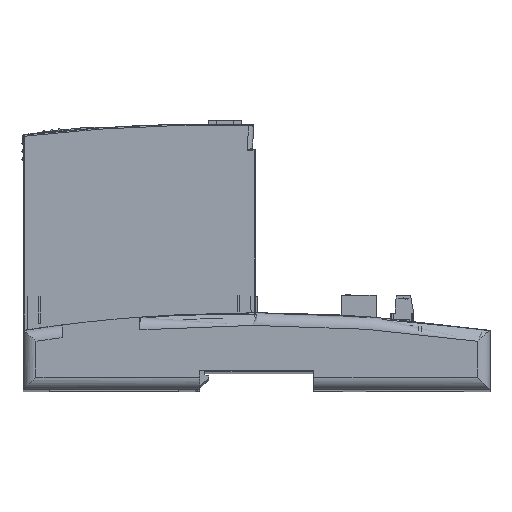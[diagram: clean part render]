
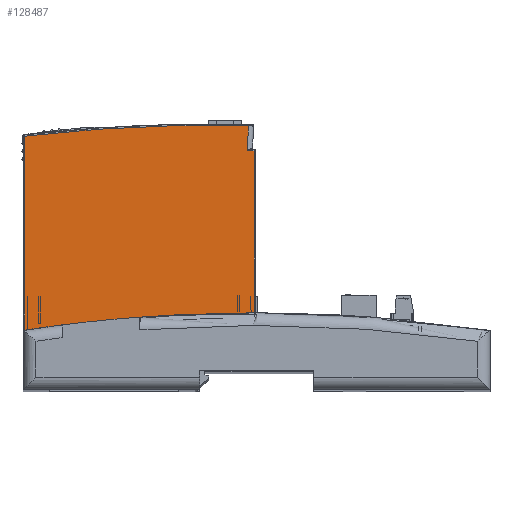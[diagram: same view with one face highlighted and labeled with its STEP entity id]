
A CAD part, top view. The second image highlights one B-rep face of the part: STEP entity #128487.
In plain terms, the highlighted planar face has unit normal (0, 0, 1).
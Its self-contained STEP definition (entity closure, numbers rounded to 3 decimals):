
#32074=DIRECTION('',(0.,1.,0.));
#32075=VECTOR('',#32074,2.4);
#32076=CARTESIAN_POINT('',(152.6,18.7,-0.2));
#32077=LINE('',#32076,#32075);
#38810=DIRECTION('',(1.,0.,0.));
#38811=VECTOR('',#38810,3.);
#38812=CARTESIAN_POINT('',(0.5,23.1,-0.203));
#38813=LINE('',#38812,#38811);
#38876=DIRECTION('',(0.,-1.,0.));
#38877=VECTOR('',#38876,74.756);
#38878=CARTESIAN_POINT('',(0.5,97.856,-0.204));
#38879=LINE('',#38878,#38877);
#39129=CARTESIAN_POINT('',(86.501,92.3,
-0.204));
#39155=DIRECTION('',(1.,0.,-0.001));
#39156=VECTOR('',#39155,3.);
#39157=CARTESIAN_POINT('',(30.5,21.1,-0.2));
#39158=LINE('',#39157,#39156);
#39159=DIRECTION('',(-1.,0.,0.));
#39160=VECTOR('',#39159,25.);
#39161=CARTESIAN_POINT('',(28.5,21.1,-0.203));
#39162=LINE('',#39161,#39160);
#39163=DIRECTION('',(0.,1.,0.));
#39164=VECTOR('',#39163,2.);
#39165=CARTESIAN_POINT('',(3.5,21.1,-0.203));
#39166=LINE('',#39165,#39164);
#39167=CARTESIAN_POINT('',(71.464,-497.429,-0.205));
#39168=DIRECTION('',(0.,0.,-1.));
#39169=DIRECTION('',(-0.118,0.993,0.));
#39170=AXIS2_PLACEMENT_3D('',#39167,#39168,#39169);
#39172=CARTESIAN_POINT('',(178.5,92.8,-0.205));
#39173=DIRECTION('',(0.,0.,1.));
#39174=DIRECTION('',(-0.995,0.099,0.));
#39175=AXIS2_PLACEMENT_3D('',#39172,#39173,#39174);
#39177=DIRECTION('',(1.,0.,0.));
#39178=VECTOR('',#39177,2.499);
#39179=CARTESIAN_POINT('',(86.501,92.3,
-0.204));
#39180=LINE('',#39179,#39178);
#39181=DIRECTION('',(0.,-1.,0.));
#39182=VECTOR('',#39181,71.2);
#39183=CARTESIAN_POINT('',(89.,92.3,-0.204));
#39184=LINE('',#39183,#39182);
#39185=DIRECTION('',(1.,0.,0.));
#39186=VECTOR('',#39185,63.6);
#39187=CARTESIAN_POINT('',(89.,21.1,-0.203));
#39188=LINE('',#39187,#39186);
#39189=DIRECTION('',(-1.,0.,0.));
#39190=VECTOR('',#39189,122.1);
#39191=CARTESIAN_POINT('',(152.6,18.7,-0.2));
#39192=LINE('',#39191,#39190);
#39193=DIRECTION('',(0.,1.,0.));
#39194=VECTOR('',#39193,2.4);
#39195=CARTESIAN_POINT('',(30.5,18.7,-0.2));
#39196=LINE('',#39195,#39194);
#39201=DIRECTION('',(0.,-1.,0.001));
#39202=VECTOR('',#39201,2.);
#39203=CARTESIAN_POINT('',(33.5,23.1,-0.203));
#39204=LINE('',#39203,#39202);
#39205=DIRECTION('',(1.,0.,0.));
#39206=VECTOR('',#39205,5.);
#39207=CARTESIAN_POINT('',(28.5,23.1,-0.203));
#39208=LINE('',#39207,#39206);
#39225=DIRECTION('',(0.,1.,0.));
#39226=VECTOR('',#39225,2.);
#39227=CARTESIAN_POINT('',(28.5,21.1,-0.203));
#39228=LINE('',#39227,#39226);
#60698=CARTESIAN_POINT('',(30.5,18.7,-0.2));
#60699=VERTEX_POINT('',#60698);
#60764=CARTESIAN_POINT('',(30.5,21.1,-0.2));
#60766=VERTEX_POINT('',#60764);
#60792=CARTESIAN_POINT('',(152.6,18.7,-0.2));
#60793=VERTEX_POINT('',#60792);
#60794=CARTESIAN_POINT('',(152.6,21.1,-0.2));
#60795=VERTEX_POINT('',#60794);
#62535=CARTESIAN_POINT('',(3.5,21.1,-0.203));
#62537=VERTEX_POINT('',#62535);
#62540=CARTESIAN_POINT('',(28.5,21.1,-0.203));
#62542=VERTEX_POINT('',#62540);
#62545=CARTESIAN_POINT('',(3.5,23.1,-0.203));
#62547=VERTEX_POINT('',#62545);
#63829=CARTESIAN_POINT('',(0.5,97.856,-0.205));
#63830=VERTEX_POINT('',#63829);
#63831=CARTESIAN_POINT('',(86.948,101.871,-0.205));
#63832=VERTEX_POINT('',#63831);
#63837=VERTEX_POINT('',#39129);
#63838=CARTESIAN_POINT('',(89.,92.3,-0.205));
#63839=VERTEX_POINT('',#63838);
#63840=CARTESIAN_POINT('',(28.5,23.1,-0.203));
#63841=CARTESIAN_POINT('',(33.5,23.1,-0.203));
#63842=VERTEX_POINT('',#63840);
#63843=VERTEX_POINT('',#63841);
#63844=CARTESIAN_POINT('',(0.5,23.1,-0.203));
#63845=VERTEX_POINT('',#63844);
#73789=CARTESIAN_POINT('',(89.,21.1,-0.205));
#73790=VERTEX_POINT('',#73789);
#73807=CARTESIAN_POINT('',(33.5,21.1,-0.202));
#73808=VERTEX_POINT('',#73807);
#128455=CARTESIAN_POINT('',(91.55,19.9,-0.2));
#128456=DIRECTION('',(0.,0.,1.));
#128457=DIRECTION('',(1.,0.,0.));
#128458=AXIS2_PLACEMENT_3D('',#128455,#128456,#128457);
#128459=PLANE('',#128458);
#128460=ORIENTED_EDGE('',*,*,#118480,.T.);
#128462=ORIENTED_EDGE('',*,*,#128461,.F.);
#128464=ORIENTED_EDGE('',*,*,#128463,.F.);
#128466=ORIENTED_EDGE('',*,*,#128465,.F.);
#128468=ORIENTED_EDGE('',*,*,#128467,.T.);
#128470=ORIENTED_EDGE('',*,*,#128469,.T.);
#128471=ORIENTED_EDGE('',*,*,#127619,.F.);
#128472=ORIENTED_EDGE('',*,*,#127657,.F.);
#128474=ORIENTED_EDGE('',*,*,#128473,.T.);
#128475=ORIENTED_EDGE('',*,*,#128446,.T.);
#128477=ORIENTED_EDGE('',*,*,#128476,.T.);
#128479=ORIENTED_EDGE('',*,*,#128478,.T.);
#128480=ORIENTED_EDGE('',*,*,#118466,.T.);
#128481=ORIENTED_EDGE('',*,*,#118452,.F.);
#128482=ORIENTED_EDGE('',*,*,#118803,.T.);
#128484=ORIENTED_EDGE('',*,*,#128483,.T.);
#128485=EDGE_LOOP('',(#128460,#128462,#128464,#128466,#128468,#128470,#128471,
#128472,#128474,#128475,#128477,#128479,#128480,#128481,#128482,#128484));
#128486=FACE_OUTER_BOUND('',#128485,.F.);
#39171=CIRCLE('',#39170,599.5);
#39176=CIRCLE('',#39175,92.);
#118452=EDGE_CURVE('',#60793,#60795,#32077,.T.);
#118466=EDGE_CURVE('',#73790,#60795,#39188,.T.);
#118480=EDGE_CURVE('',#60766,#73808,#39158,.T.);
#118803=EDGE_CURVE('',#60793,#60699,#39192,.T.);
#127619=EDGE_CURVE('',#63845,#62547,#38813,.T.);
#127657=EDGE_CURVE('',#63830,#63845,#38879,.T.);
#128446=EDGE_CURVE('',#63832,#63837,#39176,.T.);
#128461=EDGE_CURVE('',#63843,#73808,#39204,.T.);
#128463=EDGE_CURVE('',#63842,#63843,#39208,.T.);
#128465=EDGE_CURVE('',#62542,#63842,#39228,.T.);
#128467=EDGE_CURVE('',#62542,#62537,#39162,.T.);
#128469=EDGE_CURVE('',#62537,#62547,#39166,.T.);
#128473=EDGE_CURVE('',#63830,#63832,#39171,.T.);
#128476=EDGE_CURVE('',#63837,#63839,#39180,.T.);
#128478=EDGE_CURVE('',#63839,#73790,#39184,.T.);
#128483=EDGE_CURVE('',#60699,#60766,#39196,.T.);
#128487=ADVANCED_FACE('',(#128486),#128459,.T.);
